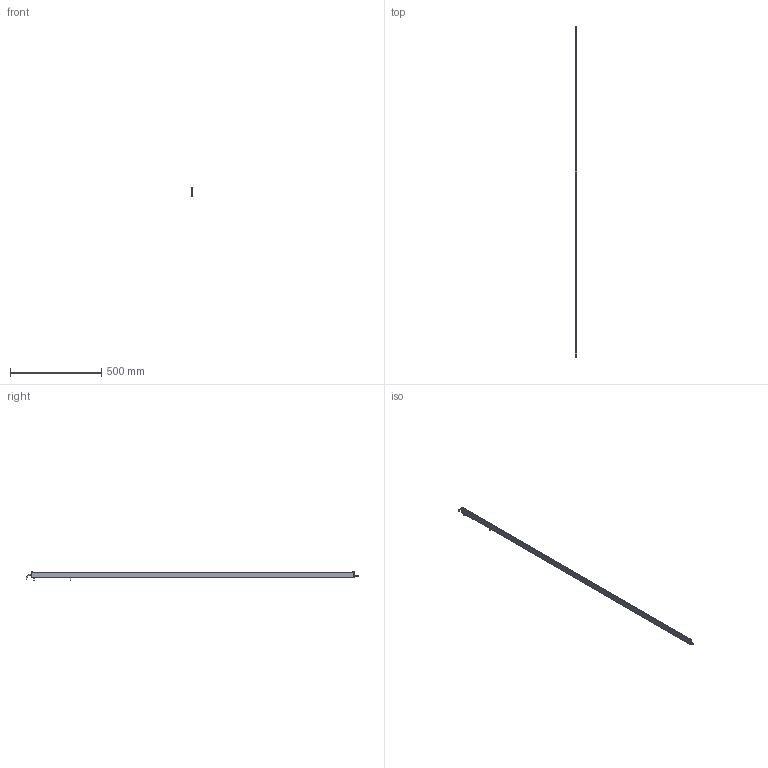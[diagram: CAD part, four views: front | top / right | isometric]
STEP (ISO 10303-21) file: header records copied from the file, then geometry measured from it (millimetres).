
FILE_DESCRIPTION (( 'STEP AP214' ), '1' );
FILE_NAME ('ILG-B-K1-1770mm.STEP', '2017-07-10T12:16:35', ( '' ), ( '' ), 'SwSTEP 2.0', 'SolidWorks 2016', '' );
FILE_SCHEMA (( 'AUTOMOTIVE_DESIGN' ));
Length unit declared in the file: millimetre
Products named in the file (1): ILG-B-K1-1770mm
Bounding box: 9 x 1818.25 x 46.21 mm (x, y, z)
Volume: 198774.8 mm3; surface area: 293051.4 mm2
Topology: 11 solids, 11 shells, 453 faces, 1150 edges, 724 vertices
Faces by surface type: plane 216, cylinder 152, cone 73, torus 12
Entity records: 18769 total; most frequent: CARTESIAN_POINT 2540, DIRECTION 2424, ORIENTED_EDGE 2284, EDGE_CURVE 1142, AXIS2_PLACEMENT_3D 896, VERTEX_POINT 724, LINE 632, VECTOR 632
